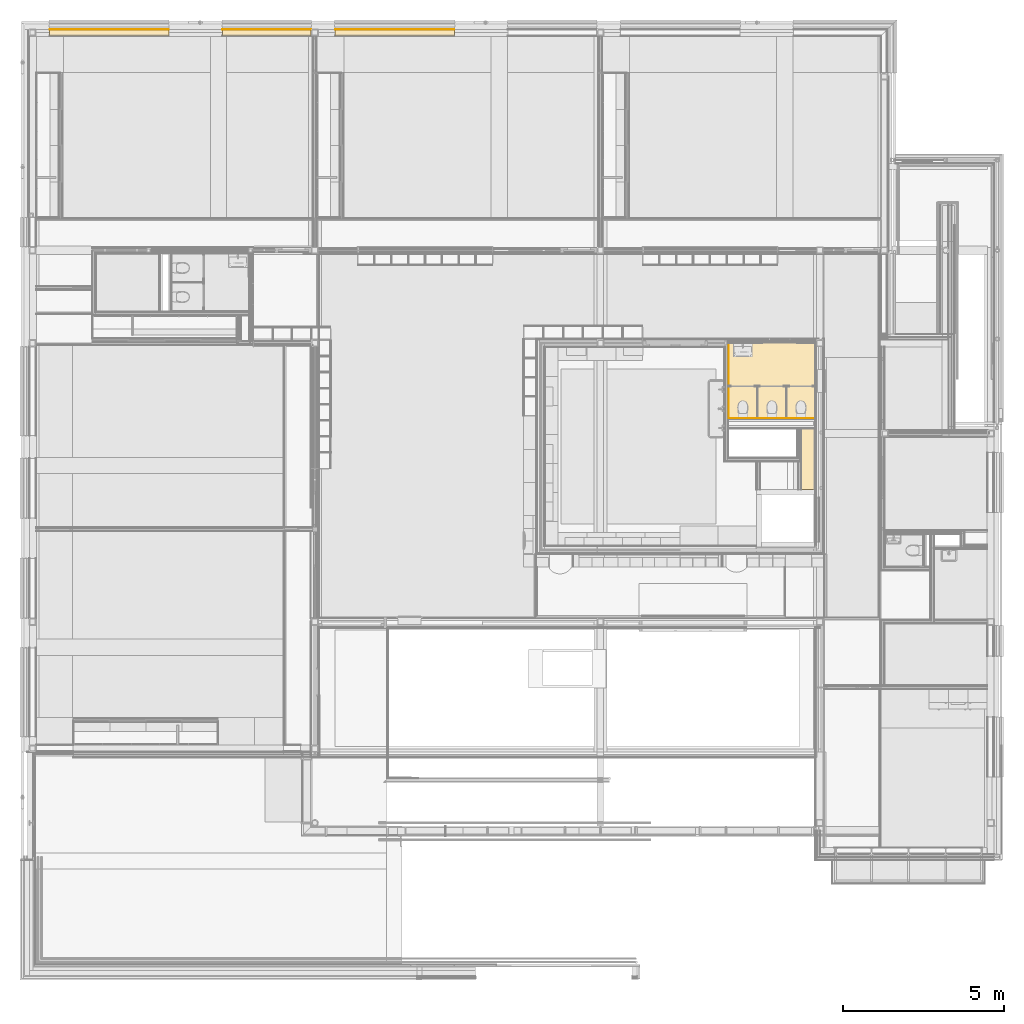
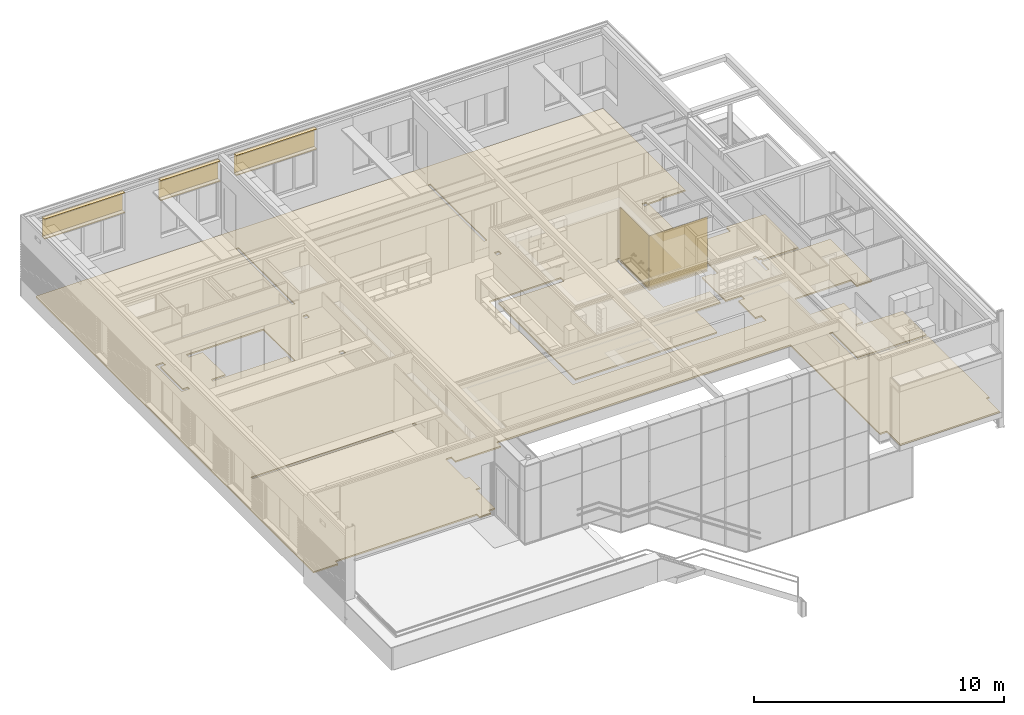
# One storey, part 106 of 137: 13 coverings, 7 elements without a shape of their own.
"""IFC2X3 building model written with IfcOpenShell, lengths in millimetres."""

from ifc_helpers import new_model, entity, si_unit, converted_unit, derived_unit, money_unit, direction, frame, origin_with_axes, place, context, subcontext, project, spatial, faceted_brep, material, type_object, element, aggregate, save


model = new_model("IFC2X3")

# Units and contexts
model_context = context("Model", 3, precision=0.01, world=origin_with_axes(), true_north=direction((0.0, 1.0)))
body_context = subcontext(model_context, "Body", "Model", "MODEL_VIEW")
ifc_project = project(units=[si_unit("LENGTHUNIT", "METRE", prefix="MILLI"), si_unit("AREAUNIT", "SQUARE_METRE"), si_unit("VOLUMEUNIT", "CUBIC_METRE"), converted_unit("PLANEANGLEUNIT", "DEGREE", entity("IfcPlaneAngleMeasure", 0.0174532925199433), si_unit("PLANEANGLEUNIT", "RADIAN"), dimensions=[0, 0, 0, 0, 0, 0, 0]), money_unit("EUR"), converted_unit("TIMEUNIT", "Year", entity("IfcTimeMeasure", 31556926.0), si_unit("TIMEUNIT", "SECOND"), dimensions=[0, 0, 1, 0, 0, 0, 0]), si_unit("MASSUNIT", "GRAM", prefix="KILO"), si_unit("THERMODYNAMICTEMPERATUREUNIT", "DEGREE_CELSIUS"), si_unit("LUMINOUSINTENSITYUNIT", "LUMEN"), si_unit("ENERGYUNIT", "JOULE", prefix="MEGA"), derived_unit("THERMALCONDUCTANCEUNIT", [(si_unit("POWERUNIT", "WATT"), 1), (si_unit("LENGTHUNIT", "METRE"), -1), (si_unit("THERMODYNAMICTEMPERATUREUNIT", "KELVIN"), -1)]), derived_unit("SPECIFICHEATCAPACITYUNIT", [(si_unit("ENERGYUNIT", "JOULE"), 1), (si_unit("MASSUNIT", "GRAM", prefix="KILO"), -1), (si_unit("THERMODYNAMICTEMPERATUREUNIT", "KELVIN"), -1)]), derived_unit("MASSDENSITYUNIT", [(si_unit("MASSUNIT", "GRAM", prefix="KILO"), 1), (si_unit("VOLUMEUNIT", "CUBIC_METRE"), -1)])], contexts=[model_context])

# Site, building, storey
site_placement = place(None, origin_with_axes())
site = spatial("IfcSite", under=ifc_project, at=site_placement, Name="Site", CompositionType="ELEMENT")
building_placement = place(site_placement, origin_with_axes())
building = spatial("IfcBuilding", under=site, at=building_placement, Name="Naam gebouw", CompositionType="ELEMENT")
storey_placement = place(building_placement, frame((0.0, 0.0, 3960.0), z_axis=(0.0, 0.0, 1.0), x_axis=(1.0, 0.0, 0.0)))
storey = spatial("IfcBuildingStorey", under=building, at=storey_placement, Name="1e verdieping", CompositionType="ELEMENT", Elevation=3960.0)

# Slab, covering
slab_type = type_object("IfcSlabType", Name="43 Zwevende dekvloer 100", PredefinedType="NOTDEFINED")
slab_1_placement = place(storey_placement, frame((21664.99903999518, 17114.99778166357, 0.0), z_axis=(0.0, 0.0, 1.0), x_axis=(1.0, 0.0, 0.0)))
slab_1 = element("IfcSlab", 1, at=slab_1_placement, inside=storey, type_object=slab_type, Name="_Vloer-x", PredefinedType="NOTDEFINED")
ifc_material_1 = material(Name="Cement - dekvloer")
covering_1_placement = place(slab_1_placement, origin_with_axes())
covering_1 = element("IfcCovering", 2, at=covering_1_placement, material=ifc_material_1, Name="Cement - dekvloer", PredefinedType="FLOORING", context=body_context, shape_type="Brep", body=[
    faceted_brep([(2699.999999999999, 0.0, -69.99999999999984), (2699.999999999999, 0.0, 0.0), (0.0, 0.0, 0.0), (0.0, 0.0, -69.99999999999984), (2699.999999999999, 2345.002025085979, -69.99999999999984), (2699.999999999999, 2345.002025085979, 0.0), (2134.992168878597, 2345.002025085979, 0.0), (2134.992168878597, 2470.00202955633, 0.0), (1054.992168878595, 2470.00202955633, 0.0), (1054.992168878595, 2345.002025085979, 0.0), (0.0, 2345.002025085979, 0.0), (0.0, 2345.002025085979, -69.99999999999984), (1054.992168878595, 2345.002025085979, -69.99999999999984), (1054.992168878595, 2470.00202955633, -69.99999999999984), (2134.992168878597, 2470.00202955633, -69.99999999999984), (2134.992168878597, 2345.002025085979, -69.99999999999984)], [[[0, 1, 2, 3]], [[4, 5, 1, 0]], [[2, 1, 5, 6, 7, 8, 9, 10]], [[3, 2, 10, 11]], [[3, 11, 12, 13, 14, 15, 4, 0]], [[15, 6, 5, 4]], [[14, 7, 6, 15]], [[13, 8, 7, 14]], [[12, 9, 8, 13]], [[11, 10, 9, 12]]]),
])
aggregate(slab_1, [covering_1])

slab_2_placement = place(storey_placement, frame((214.0000000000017, 6779.999945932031, 0.0), z_axis=(0.0, 0.0, 1.0), x_axis=(1.0, 0.0, 0.0)))
slab_2 = element("IfcSlab", 3, at=slab_2_placement, inside=storey, type_object=slab_type, Name="_Vloer-x", PredefinedType="NOTDEFINED")
covering_2_placement = place(slab_2_placement, origin_with_axes())
covering_2 = element("IfcCovering", 4, at=covering_2_placement, material=ifc_material_1, Name="Cement - dekvloer", PredefinedType="FLOORING", context=body_context, shape_type="Brep", body=[
    faceted_brep([(1140.000000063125, 4.094751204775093e-07, -69.99999999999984), (1140.000000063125, 4.094751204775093e-07, 0.0), (0.0, 0.0, 0.0), (0.0, 0.0, -69.99999999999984), (1139.999999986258, 213.9999995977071, -69.99999999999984), (1139.999999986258, 213.9999995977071, 0.0), (7663.500005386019, 213.9997371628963, 0.0), (7663.499996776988, -0.000262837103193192, 0.0), (8195.999993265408, -0.0002842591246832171, 0.0), (8196.000001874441, 213.9996186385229, 0.0), (8501.002391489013, 214.0000012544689, 0.0), (8501.002391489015, 1740.000164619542, 0.0), (8701.002391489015, 1740.000164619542, 0.0), (8701.002391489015, 2600.000164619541, 0.0), (8501.002391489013, 2600.000164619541, 0.0), (8501.002391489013, 4165.000164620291, 0.0), (8771.002391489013, 4165.000164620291, 0.0), (8771.002391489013, 3840.000164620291, 0.0), (10861.04559255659, 3840.000164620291, 0.0), (10861.04559255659, 4165.000164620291, 0.0), (24420.99915820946, 4165.000164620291, 0.0), (24420.99915820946, -2965.999945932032, 0.0), (24735.99903913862, -2965.999945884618, 0.0), (24735.99903865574, -4029.999945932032, 0.0), (29335.99946050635, -4029.999945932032, 0.0), (29335.99978334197, -2966.000053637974, 0.0), (29471.99999999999, -2965.999945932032, 0.0), (29471.99999999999, 1935.000054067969, 0.0), (26172.0, 1935.000054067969, 0.0), (26172.00000000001, 4092.500164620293, 0.0), (26297.0, 4092.500164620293, 0.0), (26297.0, 2060.000054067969, 0.0), (29471.99999999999, 2060.000054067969, 0.0), (29471.99999999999, 3967.500164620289, 0.0), (27377.0, 3967.500164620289, 0.0), (27377.0, 4092.500164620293, 0.0), (27710.99764555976, 4092.500164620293, 0.0), (27710.99777863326, 5325.114129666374, 0.0), (27711.3020311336, 5619.992661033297, 0.0), (26172.0000000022, 5619.991642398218, 0.0), (26172.0000000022, 6869.997835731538, 0.0), (28771.99999991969, 6869.997835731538, 0.0), (28772.00012042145, 6419.997643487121, 0.0), (29472.00004882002, 6419.9978309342, 0.0), (29471.99999999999, 9755.997835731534, 0.0), (28072.00002397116, 9755.997835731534, 0.0), (26297.0, 9755.997835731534, 0.0), (26297.0, 9149.997835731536, 0.0), (26172.0, 9149.997835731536, 0.0), (26172.0, 10213.49783573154, 0.0), (26297.0, 10213.49783573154, 0.0), (26297.0, 9969.997835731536, 0.0), (26406.0, 9969.997835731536, 0.0), (26406.0, 9880.997835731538, 0.0), (28072.00002397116, 9880.997835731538, 0.0), (28072.00002397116, 12556.0004469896, 0.0), (26297.0, 12556.0004469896, 0.0), (26297.0, 12223.49783573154, 0.0), (26172.0, 12223.49783573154, 0.0), (24420.99903999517, 12223.49783573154, 0.0), (24420.99903999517, 9939.9977561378, 0.0), (24150.99903999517, 9939.9977561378, 0.0), (24150.99903999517, 10009.99783573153, 0.0), (23710.99903999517, 10009.99783573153, 0.0), (23710.99903999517, 8994.997835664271, 0.0), (23710.99903999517, 8129.997756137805, 0.0), (24420.99903999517, 8129.997756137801, 0.0), (24420.99903999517, 7869.497756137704, 0.0), (24150.99903999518, 7869.497756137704, 0.0), (24150.99903999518, 6509.49775613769, 0.0), (24420.99903999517, 6509.49775613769, 0.0), (24420.99903999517, 6124.997835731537, 0.0), (15500.99945671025, 6124.997835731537, 0.0), (15500.99945671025, 12804.99986528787, 0.0), (18800.99945671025, 12804.99986528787, 0.0), (18800.99945671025, 12534.99986528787, 0.0), (15770.99909109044, 12534.99986528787, 0.0), (15770.99909109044, 6394.997835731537, 0.0), (22320.99903999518, 6394.997835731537, 0.0), (22320.99903999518, 8129.997756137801, 0.0), (23473.49903999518, 8129.997756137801, 0.0), (23473.49903999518, 8994.997835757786, 0.0), (21325.99903999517, 8994.997835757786, 0.0), (21325.99903999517, 12804.99986528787, 0.0), (24420.99903999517, 12804.99986528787, 0.0), (24420.99903999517, 15537.47628047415, 0.0), (25042.0, 15537.47628047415, 0.0), (25042.0, 15607.4762681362, 0.0), (26172.00000208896, 15607.4762681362, 0.0), (26172.00000045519, 22181.00005406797, 0.0), (0.0, 22181.00005406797, 0.0), (1130.0, 6959.999865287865, 0.0), (7673.500000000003, 6959.999865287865, 0.0), (7673.500000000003, 6834.999865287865, 0.0), (1130.0, 6834.999865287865, 0.0), (1730.0, 15639.97626813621, 0.0), (2086.000021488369, 15639.97626813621, 0.0), (2086.000021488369, 15449.97626813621, 0.0), (1855.0, 15449.97626813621, 0.0), (1855.0, 13649.97626813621, 0.0), (2086.000021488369, 13649.97626813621, 0.0), (2086.000021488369, 13524.97626813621, 0.0), (1730.0, 13524.97626813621, 0.0), (3166.000021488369, 15639.97626813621, 0.0), (6725.999999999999, 15639.97626813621, 0.0), (6725.999999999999, 13132.49986528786, 0.0), (6601.0, 13132.49986528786, 0.0), (6601.0, 13524.97626813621, 0.0), (3166.000021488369, 13524.97626813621, 0.0), (3166.000021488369, 13649.97626813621, 0.0), (3816.000021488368, 13649.97626813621, 0.0), (3816.000021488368, 15449.97626813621, 0.0), (3166.000021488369, 15449.97626813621, 0.0), (8736.000000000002, 15444.99990113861, 0.0), (8536.000000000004, 15444.99990113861, 0.0), (8536.000000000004, 15644.99990113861, 0.0), (8736.000000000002, 15644.99990113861, 0.0), (8536.000000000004, 12769.99986528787, 0.0), (8736.000000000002, 12769.99986528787, 0.0), (8736.000000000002, 12569.99986528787, 0.0), (8536.000000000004, 12569.99986528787, 0.0), (8698.500000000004, 16544.99990113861, 0.0), (8573.500000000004, 16544.99990113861, 0.0), (8573.500000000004, 21051.00005406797, 0.0), (8698.500000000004, 21051.00005406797, 0.0), (8573.500000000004, 6959.999865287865, 0.0), (8698.500000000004, 6959.999865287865, 0.0), (8698.500000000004, 6834.999865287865, 0.0), (8573.500000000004, 6834.999865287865, 0.0), (17385.99942456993, 15444.99990113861, 0.0), (17385.99942456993, 15644.99990113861, 0.0), (17585.99942456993, 15644.99990113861, 0.0), (17585.99942456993, 15444.99990113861, 0.0), (17548.49942456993, 16544.99990113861, 0.0), (17423.49942456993, 16544.99990113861, 0.0), (17423.49942456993, 21051.00005406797, 0.0), (17548.49942456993, 21051.00005406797, 0.0), (24185.99903999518, 15444.99990113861, 0.0), (24185.99903999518, 15644.99990113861, 0.0), (24385.99903999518, 15644.99990113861, 0.0), (24385.99903999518, 15444.99990113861, 0.0), (0.0, 22181.00005406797, -69.99999999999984), (26172.00000045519, 22181.00005406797, -69.99999999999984), (26172.00000208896, 15607.4762681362, -69.99999999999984), (25042.0, 15607.4762681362, -69.99999999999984), (25042.0, 15537.47628047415, -69.99999999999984), (24420.99903999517, 15537.47628047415, -69.99999999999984), (24420.99903999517, 12804.99986528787, -69.99999999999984), (21325.99903999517, 12804.99986528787, -69.99999999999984), (21325.99903999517, 8994.997835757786, -69.99999999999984), (23473.49903999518, 8994.997835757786, -69.99999999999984), (23473.49903999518, 8129.997756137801, -69.99999999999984), (22320.99903999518, 8129.997756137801, -69.99999999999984), (22320.99903999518, 6394.997835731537, -69.99999999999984), (15770.99909109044, 6394.997835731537, -69.99999999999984), (15770.99909109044, 12534.99986528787, -69.99999999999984), (18800.99945671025, 12534.99986528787, -69.99999999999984), (18800.99945671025, 12804.99986528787, -69.99999999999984), (15500.99945671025, 12804.99986528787, -69.99999999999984), (15500.99945671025, 6124.997835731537, -69.99999999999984), (24420.99903999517, 6124.997835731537, -69.99999999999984), (24420.99903999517, 6509.49775613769, -69.99999999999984), (24150.99903999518, 6509.49775613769, -69.99999999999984), (24150.99903999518, 7869.497756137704, -69.99999999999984), (24420.99903999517, 7869.497756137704, -69.99999999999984), (24420.99903999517, 8129.997756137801, -69.99999999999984), (23710.99903999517, 8129.997756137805, -69.99999999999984), (23710.99903999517, 8994.997835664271, -69.99999999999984), (23710.99903999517, 10009.99783573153, -69.99999999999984), (24150.99903999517, 10009.99783573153, -69.99999999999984), (24150.99903999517, 9939.9977561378, -69.99999999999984), (24420.99903999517, 9939.9977561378, -69.99999999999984), (24420.99903999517, 12223.49783573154, -69.99999999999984), (26172.0, 12223.49783573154, -69.99999999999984), (26297.0, 12223.49783573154, -69.99999999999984), (26297.0, 12556.0004469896, -69.99999999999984), (28072.00002397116, 12556.0004469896, -69.99999999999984), (28072.00002397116, 9880.997835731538, -69.99999999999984), (26406.0, 9880.997835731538, -69.99999999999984), (26406.0, 9969.997835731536, -69.99999999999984), (26297.0, 9969.997835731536, -69.99999999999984), (26297.0, 10213.49783573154, -69.99999999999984), (26172.0, 10213.49783573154, -69.99999999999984), (26172.0, 9149.997835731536, -69.99999999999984), (26297.0, 9149.997835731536, -69.99999999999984), (26297.0, 9755.997835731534, -69.99999999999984), (28072.00002397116, 9755.997835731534, -69.99999999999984), (29471.99999999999, 9755.997835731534, -69.99999999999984), (29472.00004882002, 6419.9978309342, -69.99999999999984), (28772.00012042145, 6419.997643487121, -69.99999999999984), (28771.99999991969, 6869.997835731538, -69.99999999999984), (26172.0000000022, 6869.997835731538, -69.99999999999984), (26172.0000000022, 5619.991642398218, -69.99999999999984), (27711.3020311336, 5619.992661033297, -69.99999999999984), (27710.99777863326, 5325.114129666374, -69.99999999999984), (27710.99764555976, 4092.500164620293, -69.99999999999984), (27377.0, 4092.500164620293, -69.99999999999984), (27377.0, 3967.500164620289, -69.99999999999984), (29471.99999999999, 3967.500164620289, -69.99999999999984), (29471.99999999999, 2060.000054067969, -69.99999999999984), (26297.0, 2060.000054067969, -69.99999999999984), (26297.0, 4092.500164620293, -69.99999999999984), (26172.00000000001, 4092.500164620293, -69.99999999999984), (26172.0, 1935.000054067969, -69.99999999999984), (29471.99999999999, 1935.000054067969, -69.99999999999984), (29471.99999999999, -2965.999945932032, -69.99999999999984), (29335.99978334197, -2966.000053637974, -69.99999999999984), (29335.99946050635, -4029.999945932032, -69.99999999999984), (24735.99903865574, -4029.999945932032, -69.99999999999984), (24735.99903913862, -2965.999945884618, -69.99999999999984), (24420.99915820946, -2965.999945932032, -69.99999999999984), (24420.99915820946, 4165.000164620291, -69.99999999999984), (10861.04559255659, 4165.000164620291, -69.99999999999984), (10861.04559255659, 3840.000164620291, -69.99999999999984), (8771.002391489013, 3840.000164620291, -69.99999999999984), (8771.002391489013, 4165.000164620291, -69.99999999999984), (8501.002391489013, 4165.000164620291, -69.99999999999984), (8501.002391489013, 2600.000164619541, -69.99999999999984), (8701.002391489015, 2600.000164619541, -69.99999999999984), (8701.002391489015, 1740.000164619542, -69.99999999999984), (8501.002391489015, 1740.000164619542, -69.99999999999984), (8501.002391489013, 214.0000012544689, -69.99999999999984), (8196.000001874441, 213.9996186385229, -69.99999999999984), (8195.999993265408, -0.0002842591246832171, -69.99999999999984), (7663.499996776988, -0.000262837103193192, -69.99999999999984), (7663.500005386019, 213.9997371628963, -69.99999999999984), (1130.0, 6959.999865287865, -69.99999999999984), (1130.0, 6834.999865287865, -69.99999999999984), (7673.500000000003, 6834.999865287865, -69.99999999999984), (7673.500000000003, 6959.999865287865, -69.99999999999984), (1730.0, 15639.97626813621, -69.99999999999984), (1730.0, 13524.97626813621, -69.99999999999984), (2086.000021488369, 13524.97626813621, -69.99999999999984), (2086.000021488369, 13649.97626813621, -69.99999999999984), (1855.0, 13649.97626813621, -69.99999999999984), (1855.0, 15449.97626813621, -69.99999999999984), (2086.000021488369, 15449.97626813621, -69.99999999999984), (2086.000021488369, 15639.97626813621, -69.99999999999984), (3166.000021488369, 15639.97626813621, -69.99999999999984), (3166.000021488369, 15449.97626813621, -69.99999999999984), (3816.000021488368, 15449.97626813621, -69.99999999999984), (3816.000021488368, 13649.97626813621, -69.99999999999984), (3166.000021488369, 13649.97626813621, -69.99999999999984), (3166.000021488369, 13524.97626813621, -69.99999999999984), (6601.0, 13524.97626813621, -69.99999999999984), (6601.0, 13132.49986528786, -69.99999999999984), (6725.999999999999, 13132.49986528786, -69.99999999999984), (6725.999999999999, 15639.97626813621, -69.99999999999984), (8736.000000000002, 15444.99990113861, -69.99999999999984), (8736.000000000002, 15644.99990113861, -69.99999999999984), (8536.000000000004, 15644.99990113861, -69.99999999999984), (8536.000000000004, 15444.99990113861, -69.99999999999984), (8536.000000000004, 12769.99986528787, -69.99999999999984), (8536.000000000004, 12569.99986528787, -69.99999999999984), (8736.000000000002, 12569.99986528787, -69.99999999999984), (8736.000000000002, 12769.99986528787, -69.99999999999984), (8698.500000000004, 16544.99990113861, -69.99999999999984), (8698.500000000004, 21051.00005406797, -69.99999999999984), (8573.500000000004, 21051.00005406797, -69.99999999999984), (8573.500000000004, 16544.99990113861, -69.99999999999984), (8573.500000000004, 6959.999865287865, -69.99999999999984), (8573.500000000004, 6834.999865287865, -69.99999999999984), (8698.500000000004, 6834.999865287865, -69.99999999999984), (8698.500000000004, 6959.999865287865, -69.99999999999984), (17385.99942456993, 15444.99990113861, -69.99999999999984), (17585.99942456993, 15444.99990113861, -69.99999999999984), (17585.99942456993, 15644.99990113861, -69.99999999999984), (17385.99942456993, 15644.99990113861, -69.99999999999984), (17548.49942456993, 16544.99990113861, -69.99999999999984), (17548.49942456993, 21051.00005406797, -69.99999999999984), (17423.49942456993, 21051.00005406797, -69.99999999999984), (17423.49942456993, 16544.99990113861, -69.99999999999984), (24185.99903999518, 15444.99990113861, -69.99999999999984), (24385.99903999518, 15444.99990113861, -69.99999999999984), (24385.99903999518, 15644.99990113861, -69.99999999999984), (24185.99903999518, 15644.99990113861, -69.99999999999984)], [[[0, 1, 2, 3]], [[4, 5, 1, 0]], [[2, 1, 5, 6, 7, 8, 9, 10, 11, 12, 13, 14, 15, 16, 17, 18, 19, 20, 21, 22, 23, 24, 25, 26, 27, 28, 29, 30, 31, 32, 33, 34, 35, 36, 37, 38, 39, 40, 41, 42, 43, 44, 45, 46, 47, 48, 49, 50, 51, 52, 53, 54, 55, 56, 57, 58, 59, 60, 61, 62, 63, 64, 65, 66, 67, 68, 69, 70, 71, 72, 73, 74, 75, 76, 77, 78, 79, 80, 81, 82, 83, 84, 85, 86, 87, 88, 89, 90], [91, 92, 93, 94], [95, 96, 97, 98, 99, 100, 101, 102], [103, 104, 105, 106, 107, 108, 109, 110, 111, 112], [113, 114, 115, 116], [117, 118, 119, 120], [121, 122, 123, 124], [125, 126, 127, 128], [129, 130, 131, 132], [133, 134, 135, 136], [137, 138, 139, 140]], [[3, 2, 90, 141]], [[3, 141, 142, 143, 144, 145, 146, 147, 148, 149, 150, 151, 152, 153, 154, 155, 156, 157, 158, 159, 160, 161, 162, 163, 164, 165, 166, 167, 168, 169, 170, 171, 172, 173, 174, 175, 176, 177, 178, 179, 180, 181, 182, 183, 184, 185, 186, 187, 188, 189, 190, 191, 192, 193, 194, 195, 196, 197, 198, 199, 200, 201, 202, 203, 204, 205, 206, 207, 208, 209, 210, 211, 212, 213, 214, 215, 216, 217, 218, 219, 220, 221, 222, 223, 224, 225, 4, 0], [226, 227, 228, 229], [230, 231, 232, 233, 234, 235, 236, 237], [238, 239, 240, 241, 242, 243, 244, 245, 246, 247], [248, 249, 250, 251], [252, 253, 254, 255], [256, 257, 258, 259], [260, 261, 262, 263], [264, 265, 266, 267], [268, 269, 270, 271], [272, 273, 274, 275]], [[225, 6, 5, 4]], [[224, 7, 6, 225]], [[223, 8, 7, 224]], [[222, 9, 8, 223]], [[221, 10, 9, 222]], [[220, 11, 10, 221]], [[219, 12, 11, 220]], [[218, 13, 12, 219]], [[217, 14, 13, 218]], [[216, 15, 14, 217]], [[215, 16, 15, 216]], [[214, 17, 16, 215]], [[213, 18, 17, 214]], [[212, 19, 18, 213]], [[211, 20, 19, 212]], [[210, 21, 20, 211]], [[209, 22, 21, 210]], [[208, 23, 22, 209]], [[207, 24, 23, 208]], [[206, 25, 24, 207]], [[205, 26, 25, 206]], [[204, 27, 26, 205]], [[203, 28, 27, 204]], [[202, 29, 28, 203]], [[201, 30, 29, 202]], [[200, 31, 30, 201]], [[199, 32, 31, 200]], [[198, 33, 32, 199]], [[197, 34, 33, 198]], [[196, 35, 34, 197]], [[195, 36, 35, 196]], [[194, 37, 36, 195]], [[193, 38, 37, 194]], [[192, 39, 38, 193]], [[191, 40, 39, 192]], [[190, 41, 40, 191]], [[189, 42, 41, 190]], [[188, 43, 42, 189]], [[187, 44, 43, 188]], [[186, 45, 44, 187]], [[185, 46, 45, 186]], [[184, 47, 46, 185]], [[183, 48, 47, 184]], [[182, 49, 48, 183]], [[181, 50, 49, 182]], [[180, 51, 50, 181]], [[179, 52, 51, 180]], [[178, 53, 52, 179]], [[177, 54, 53, 178]], [[176, 55, 54, 177]], [[175, 56, 55, 176]], [[174, 57, 56, 175]], [[173, 58, 57, 174]], [[172, 59, 58, 173]], [[171, 60, 59, 172]], [[170, 61, 60, 171]], [[169, 62, 61, 170]], [[168, 63, 62, 169]], [[167, 64, 63, 168]], [[166, 65, 64, 167]], [[165, 66, 65, 166]], [[164, 67, 66, 165]], [[163, 68, 67, 164]], [[162, 69, 68, 163]], [[161, 70, 69, 162]], [[160, 71, 70, 161]], [[159, 72, 71, 160]], [[158, 73, 72, 159]], [[157, 74, 73, 158]], [[156, 75, 74, 157]], [[155, 76, 75, 156]], [[154, 77, 76, 155]], [[153, 78, 77, 154]], [[152, 79, 78, 153]], [[151, 80, 79, 152]], [[150, 81, 80, 151]], [[149, 82, 81, 150]], [[148, 83, 82, 149]], [[147, 84, 83, 148]], [[146, 85, 84, 147]], [[145, 86, 85, 146]], [[144, 87, 86, 145]], [[143, 88, 87, 144]], [[142, 89, 88, 143]], [[141, 90, 89, 142]], [[229, 92, 91, 226]], [[228, 93, 92, 229]], [[227, 94, 93, 228]], [[226, 91, 94, 227]], [[237, 96, 95, 230]], [[236, 97, 96, 237]], [[235, 98, 97, 236]], [[234, 99, 98, 235]], [[233, 100, 99, 234]], [[232, 101, 100, 233]], [[231, 102, 101, 232]], [[230, 95, 102, 231]], [[247, 104, 103, 238]], [[246, 105, 104, 247]], [[245, 106, 105, 246]], [[244, 107, 106, 245]], [[243, 108, 107, 244]], [[242, 109, 108, 243]], [[241, 110, 109, 242]], [[240, 111, 110, 241]], [[239, 112, 111, 240]], [[238, 103, 112, 239]], [[251, 114, 113, 248]], [[250, 115, 114, 251]], [[249, 116, 115, 250]], [[248, 113, 116, 249]], [[255, 118, 117, 252]], [[254, 119, 118, 255]], [[253, 120, 119, 254]], [[252, 117, 120, 253]], [[259, 122, 121, 256]], [[258, 123, 122, 259]], [[257, 124, 123, 258]], [[256, 121, 124, 257]], [[263, 126, 125, 260]], [[262, 127, 126, 263]], [[261, 128, 127, 262]], [[260, 125, 128, 261]], [[267, 130, 129, 264]], [[266, 131, 130, 267]], [[265, 132, 131, 266]], [[264, 129, 132, 265]], [[271, 134, 133, 268]], [[270, 135, 134, 271]], [[269, 136, 135, 270]], [[268, 133, 136, 269]], [[275, 138, 137, 272]], [[274, 139, 138, 275]], [[273, 140, 139, 274]], [[272, 137, 140, 273]]]),
])
aggregate(slab_2, [covering_2])

# Proxy, covering
building_element_proxy_type = type_object("IfcBuildingElementProxyType", Name="42 Tegelwerk 2600+ 12 x 2600", PredefinedType="NOTDEFINED")
proxy_1_placement = place(storey_placement, frame((21684.99903999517, 19439.9998112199, 0.0), z_axis=(0.0, 0.0, 1.0), x_axis=(0.0, -1.0, 0.0)))
proxy_1 = element("IfcBuildingElementProxy", 5, at=proxy_1_placement, inside=storey, type_object=building_element_proxy_type, Name="_Wand-x")
ifc_material_2 = material(Name="Tegels - Wand")
covering_3_placement = place(proxy_1_placement, origin_with_axes())
covering_3 = element("IfcCovering", 6, at=covering_3_placement, material=ifc_material_2, Name="Tegels - Wand", PredefinedType="NOTDEFINED", context=body_context, shape_type="Brep", body=[
    faceted_brep([(2318.002034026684, -13.00000000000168, 2600.0), (2318.002034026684, -7.999999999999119, 2600.0), (-7.999999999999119, -7.999999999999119, 2600.0), (-7.999999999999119, -12.99999999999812, 2600.0), (2318.002034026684, -7.999999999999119, 49.99999999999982), (2318.002034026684, -13.00000000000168, 49.99999999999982), (-7.999999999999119, -7.999999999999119, 49.99999999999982), (-7.999999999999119, -13.00000000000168, 49.99999999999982)], [[[0, 1, 2, 3]], [[4, 1, 0, 5]], [[1, 4, 6, 2]], [[3, 2, 6, 7]], [[5, 0, 3, 7]], [[4, 5, 7, 6]]]),
])
aggregate(proxy_1, [covering_3])

proxy_2_placement = place(storey_placement, frame((21684.99903999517, 17134.99778166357, 0.0), z_axis=(0.0, 0.0, 1.0), x_axis=(1.0, 0.0, 0.0)))
proxy_2 = element("IfcBuildingElementProxy", 7, at=proxy_2_placement, inside=storey, type_object=building_element_proxy_type, Name="_Wand-x")
covering_4_placement = place(proxy_2_placement, origin_with_axes())
covering_4 = element("IfcCovering", 8, at=covering_4_placement, material=ifc_material_2, Name="Tegels - Wand", PredefinedType="NOTDEFINED", context=body_context, shape_type="Brep", body=[
    faceted_brep([(2673.000004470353, -12.99999999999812, 2600.0), (2673.000004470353, -7.999999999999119, 2600.0), (-7.999999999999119, -7.999999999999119, 2600.0), (-7.999999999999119, -12.99999999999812, 2600.0), (2673.000004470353, -7.999999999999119, 49.99999999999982), (2673.000004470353, -12.99999999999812, 49.99999999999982), (-7.999999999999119, -7.999999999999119, 49.99999999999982), (-7.999999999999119, -13.00000000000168, 49.99999999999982)], [[[0, 1, 2, 3]], [[4, 1, 0, 5]], [[1, 4, 6, 2]], [[3, 2, 6, 7]], [[5, 0, 3, 7]], [[4, 5, 7, 6]]]),
])
aggregate(proxy_2, [covering_4])

# Beam, coverings
beam_type = type_object("IfcBeamType", Name="31 HSB boven kozijnen 214 x 1000", PredefinedType="BEAM")
beam_1_placement = place(storey_placement, frame((625.0000000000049, 28961.0, 2600.000000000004), z_axis=(0.0, 0.0, 1.0), x_axis=(0.0, -1.0, 0.0)))
beam_1 = element("IfcBeam", 9, at=beam_1_placement, inside=storey, type_object=beam_type, Name="28_Balk-x", ObjectType="BEAM")
ifc_material_3 = material(Name="Hout - Vloer")
covering_5_placement = place(beam_1_placement, origin_with_axes())
covering_5 = element("IfcCovering", 10, at=covering_5_placement, material=ifc_material_3, Name="Hout - Vloer", PredefinedType="NOTDEFINED", context=body_context, shape_type="Brep", body=[
    faceted_brep([(-196.000001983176, 3700.0, 999.9999999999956), (-196.000001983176, 3700.0, 961.9999910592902), (-196.000001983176, 0.0, 961.9999910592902), (-196.000001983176, 0.0, 999.9999999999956), (-11.99999006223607, 3700.0, 999.9999999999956), (-11.99999006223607, 3700.0, 962.0000059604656), (-11.99999006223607, 0.0, 962.0000059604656), (-11.99999006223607, 0.0, 999.9999999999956)], [[[0, 1, 2, 3]], [[0, 4, 5, 1]], [[1, 5, 6, 2]], [[3, 2, 6, 7]], [[4, 0, 3, 7]], [[5, 4, 7, 6]]]),
])
covering_6_placement = place(beam_1_placement, origin_with_axes())
covering_6 = element("IfcCovering", 11, at=covering_6_placement, material=ifc_material_3, Name="Hout - Vloer", PredefinedType="NOTDEFINED", context=body_context, shape_type="Brep", body=[
    faceted_brep([(-196.0000083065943, 3700.0, 49.99999999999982), (-196.0000083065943, 3700.0, 12.00000596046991), (-196.0000083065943, 0.0, 12.00000596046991), (-196.0000083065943, 0.0, 49.99999999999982), (-11.9999963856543, 3700.0, 49.99999999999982), (-11.9999963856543, 3700.0, 12.00000596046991), (-11.9999963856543, 0.0, 12.00000596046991), (-11.9999963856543, 0.0, 49.99999999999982)], [[[0, 1, 2, 3]], [[0, 4, 5, 1]], [[1, 5, 6, 2]], [[3, 2, 6, 7]], [[4, 0, 3, 7]], [[5, 4, 7, 6]]]),
])

beam_2_placement = place(storey_placement, frame((5985.000000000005, 28961.0, 2600.000000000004), z_axis=(0.0, 0.0, 1.0), x_axis=(0.0, -1.0, 0.0)))
beam_2 = element("IfcBeam", 12, at=beam_2_placement, inside=storey, type_object=beam_type, Name="28_Balk-x", ObjectType="BEAM")
covering_7_placement = place(beam_2_placement, origin_with_axes())
covering_7 = element("IfcCovering", 13, at=covering_7_placement, material=ifc_material_3, Name="Hout - Vloer", PredefinedType="NOTDEFINED", context=body_context, shape_type="Brep", body=[
    faceted_brep([(-196.0000083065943, 2750.000000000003, 49.99999999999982), (-196.0000083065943, 2750.000000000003, 12.00000596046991), (-196.0000083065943, 0.0, 12.00000596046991), (-196.0000083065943, 0.0, 49.99999999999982), (-11.9999963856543, 2750.000000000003, 49.99999999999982), (-11.9999963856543, 2750.000000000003, 12.00000596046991), (-11.9999963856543, 0.0, 12.00000596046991), (-11.9999963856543, 0.0, 49.99999999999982)], [[[0, 1, 2, 3]], [[0, 4, 5, 1]], [[1, 5, 6, 2]], [[3, 2, 6, 7]], [[4, 0, 3, 7]], [[5, 4, 7, 6]]]),
])
covering_8_placement = place(beam_2_placement, origin_with_axes())
covering_8 = element("IfcCovering", 14, at=covering_8_placement, material=ifc_material_3, Name="Hout - Vloer", PredefinedType="NOTDEFINED", context=body_context, shape_type="Brep", body=[
    faceted_brep([(-196.000001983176, 2750.000000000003, 999.9999999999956), (-196.000001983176, 2750.000000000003, 961.9999910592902), (-196.000001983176, 0.0, 961.9999910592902), (-196.000001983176, 0.0, 999.9999999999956), (-11.99999006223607, 2750.000000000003, 999.9999999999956), (-11.99999006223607, 2750.000000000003, 962.0000059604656), (-11.99999006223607, 0.0, 962.0000059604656), (-11.99999006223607, 0.0, 999.9999999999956)], [[[0, 1, 2, 3]], [[0, 4, 5, 1]], [[1, 5, 6, 2]], [[3, 2, 6, 7]], [[4, 0, 3, 7]], [[5, 4, 7, 6]]]),
])

# Beam, covering
beam_3_placement = place(storey_placement, frame((9474.999424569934, 28961.0, 2600.000000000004), z_axis=(0.0, 0.0, 1.0), x_axis=(0.0, -1.0, 0.0)))
beam_3 = element("IfcBeam", 15, at=beam_3_placement, inside=storey, type_object=beam_type, Name="28_Balk-x", ObjectType="BEAM")
covering_9_placement = place(beam_3_placement, origin_with_axes())
covering_9 = element("IfcCovering", 16, at=covering_9_placement, material=ifc_material_3, Name="Hout - Vloer", PredefinedType="NOTDEFINED", context=body_context, shape_type="Brep", body=[
    faceted_brep([(-196.000001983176, 3699.999999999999, 999.9999999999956), (-196.000001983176, 3699.999999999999, 961.9999910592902), (-196.000001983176, 0.0, 961.9999910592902), (-196.000001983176, 0.0, 999.9999999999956), (-11.99999006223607, 3699.999999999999, 999.9999999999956), (-11.99999006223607, 3699.999999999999, 962.0000059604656), (-11.99999006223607, 0.0, 962.0000059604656), (-11.99999006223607, 0.0, 999.9999999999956)], [[[0, 1, 2, 3]], [[0, 4, 5, 1]], [[1, 5, 6, 2]], [[3, 2, 6, 7]], [[4, 0, 3, 7]], [[5, 4, 7, 6]]]),
])

# Covering
ifc_material_4 = material(Name="Hout - Multiplex")
covering_10_placement = place(beam_2_placement, origin_with_axes())
covering_10 = element("IfcCovering", 17, at=covering_10_placement, material=ifc_material_4, Name="Hout - Multiplex", PredefinedType="NOTDEFINED", context=body_context, shape_type="Brep", body=[
    faceted_brep([(-214.0000025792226, 2750.000000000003, 999.9999999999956), (-214.0000025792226, 2750.000000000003, 11.99999999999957), (-214.0000025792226, 0.0, 11.99999999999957), (-214.0000025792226, 0.0, 999.9999999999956), (-196.000001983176, 2750.000000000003, 999.9999999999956), (-196.000001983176, 2750.000000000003, 11.99999999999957), (-196.000001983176, 0.0, 11.99999999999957), (-196.000001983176, 0.0, 999.9999999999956)], [[[0, 1, 2, 3]], [[0, 4, 5, 1]], [[1, 5, 6, 2]], [[3, 2, 6, 7]], [[4, 0, 3, 7]], [[5, 4, 7, 6]]]),
])

aggregate(beam_2, [covering_7, covering_8, covering_10])

covering_11_placement = place(beam_1_placement, origin_with_axes())
covering_11 = element("IfcCovering", 18, at=covering_11_placement, material=ifc_material_4, Name="Hout - Multiplex", PredefinedType="NOTDEFINED", context=body_context, shape_type="Brep", body=[
    faceted_brep([(-214.0000025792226, 3700.0, 999.9999999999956), (-214.0000025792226, 3700.0, 11.99999999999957), (-214.0000025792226, 0.0, 11.99999999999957), (-214.0000025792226, 0.0, 999.9999999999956), (-196.000001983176, 3700.0, 999.9999999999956), (-196.000001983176, 3700.0, 11.99999999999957), (-196.000001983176, 0.0, 11.99999999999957), (-196.000001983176, 0.0, 999.9999999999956)], [[[0, 1, 2, 3]], [[0, 4, 5, 1]], [[1, 5, 6, 2]], [[3, 2, 6, 7]], [[4, 0, 3, 7]], [[5, 4, 7, 6]]]),
])

aggregate(beam_1, [covering_5, covering_6, covering_11])

covering_12_placement = place(beam_3_placement, origin_with_axes())
covering_12 = element("IfcCovering", 19, at=covering_12_placement, material=ifc_material_4, Name="Hout - Multiplex", PredefinedType="NOTDEFINED", context=body_context, shape_type="Brep", body=[
    faceted_brep([(-214.0000025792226, 3699.999999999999, 999.9999999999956), (-214.0000025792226, 3699.999999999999, 11.99999999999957), (-214.0000025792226, 0.0, 11.99999999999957), (-214.0000025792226, 0.0, 999.9999999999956), (-196.000001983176, 3699.999999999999, 999.9999999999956), (-196.000001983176, 3699.999999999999, 11.99999999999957), (-196.000001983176, 0.0, 11.99999999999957), (-196.000001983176, 0.0, 999.9999999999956)], [[[0, 1, 2, 3]], [[0, 4, 5, 1]], [[1, 5, 6, 2]], [[3, 2, 6, 7]], [[4, 0, 3, 7]], [[5, 4, 7, 6]]]),
])

covering_13_placement = place(beam_3_placement, origin_with_axes())
covering_13 = element("IfcCovering", 20, at=covering_13_placement, material=ifc_material_3, Name="Hout - Vloer", PredefinedType="NOTDEFINED", context=body_context, shape_type="Brep", body=[
    faceted_brep([(-196.0000083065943, 3699.999999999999, 49.99999999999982), (-196.0000083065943, 3699.999999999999, 12.00000596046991), (-196.0000083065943, 0.0, 12.00000596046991), (-196.0000083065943, 0.0, 49.99999999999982), (-11.9999963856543, 3699.999999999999, 49.99999999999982), (-11.9999963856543, 3699.999999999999, 12.00000596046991), (-11.9999963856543, 0.0, 12.00000596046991), (-11.9999963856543, 0.0, 49.99999999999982)], [[[0, 1, 2, 3]], [[0, 4, 5, 1]], [[1, 5, 6, 2]], [[3, 2, 6, 7]], [[4, 0, 3, 7]], [[5, 4, 7, 6]]]),
])

aggregate(beam_3, [covering_9, covering_12, covering_13])

save(model, "model.ifc")
